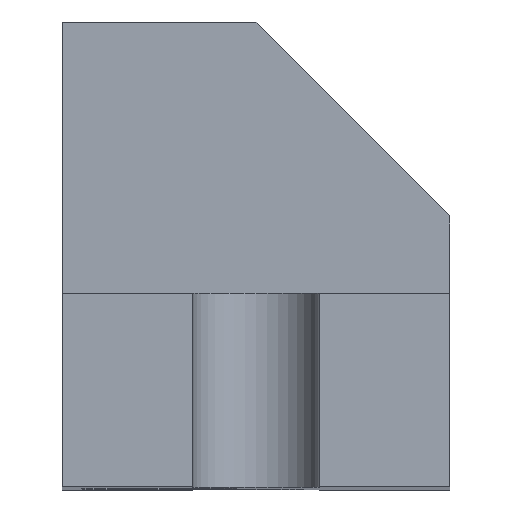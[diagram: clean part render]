
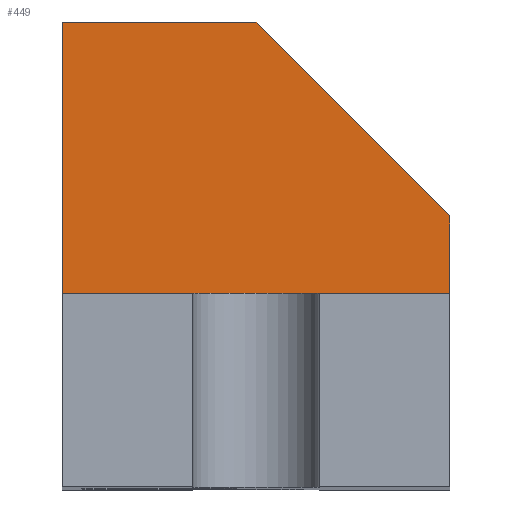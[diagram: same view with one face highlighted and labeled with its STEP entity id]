
A CAD part, top view. The second image highlights one B-rep face of the part: STEP entity #449.
In plain terms, the highlighted planar face has unit normal (0, 0, 1).
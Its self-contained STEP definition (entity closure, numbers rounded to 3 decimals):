
#306 = EDGE_CURVE ( 'NONE', #387, #307, #1075, .T. ) ;
#307 = VERTEX_POINT ( 'NONE', #1071 ) ;
#313 = VERTEX_POINT ( 'NONE', #1060 ) ;
#369 = EDGE_CURVE ( 'NONE', #313, #387, #1175, .T. ) ;
#387 = VERTEX_POINT ( 'NONE', #1206 ) ;
#449 = ADVANCED_FACE ( 'NONE', ( #1222 ), #1221, .F. ) ;
#450 = EDGE_LOOP ( 'NONE', ( #451, #452, #453, #454, #457 ) ) ;
#451 = ORIENTED_EDGE ( 'NONE', *, *, #468, .F. ) ;
#452 = ORIENTED_EDGE ( 'NONE', *, *, #306, .F. ) ;
#453 = ORIENTED_EDGE ( 'NONE', *, *, #369, .F. ) ;
#454 = ORIENTED_EDGE ( 'NONE', *, *, #455, .F. ) ;
#455 = EDGE_CURVE ( 'NONE', #456, #313, #1284, .T. ) ;
#456 = VERTEX_POINT ( 'NONE', #1280 ) ;
#457 = ORIENTED_EDGE ( 'NONE', *, *, #458, .F. ) ;
#458 = EDGE_CURVE ( 'NONE', #469, #456, #1279, .T. ) ;
#468 = EDGE_CURVE ( 'NONE', #307, #469, #1256, .T. ) ;
#469 = VERTEX_POINT ( 'NONE', #1252 ) ;
#1060 = CARTESIAN_POINT ( 'NONE',  ( -23.562, -7.58, 75. ) ) ;
#1071 = CARTESIAN_POINT ( 'NONE',  ( -13.562, -21.58, 75. ) ) ;
#1072 = DIRECTION ( 'NONE',  ( 0., -1., 0. ) ) ;
#1073 = VECTOR ( 'NONE', #1072, 1000. ) ;
#1074 = CARTESIAN_POINT ( 'NONE',  ( -13.562, -21.58, 75. ) ) ;
#1075 = LINE ( 'NONE', #1074, #1073 ) ;
#1172 = DIRECTION ( 'NONE',  ( 0.707, -0.707, 0. ) ) ;
#1173 = VECTOR ( 'NONE', #1172, 1000. ) ;
#1174 = CARTESIAN_POINT ( 'NONE',  ( -23.562, -7.58, 75. ) ) ;
#1175 = LINE ( 'NONE', #1174, #1173 ) ;
#1206 = CARTESIAN_POINT ( 'NONE',  ( -13.562, -17.58, 75. ) ) ;
#1217 = DIRECTION ( 'NONE',  ( -1., 0., 0. ) ) ;
#1218 = DIRECTION ( 'NONE',  ( 0., 0., -1. ) ) ;
#1219 = CARTESIAN_POINT ( 'NONE',  ( -13.562, -21.58, 75. ) ) ;
#1220 = AXIS2_PLACEMENT_3D ( 'NONE', #1219, #1218, #1217 ) ;
#1221 = PLANE ( 'NONE',  #1220 ) ;
#1222 = FACE_OUTER_BOUND ( 'NONE', #450, .T. ) ;
#1252 = CARTESIAN_POINT ( 'NONE',  ( -33.562, -21.58, 75. ) ) ;
#1253 = DIRECTION ( 'NONE',  ( -1., 0., 0. ) ) ;
#1254 = VECTOR ( 'NONE', #1253, 1000. ) ;
#1255 = CARTESIAN_POINT ( 'NONE',  ( -13.562, -21.58, 75. ) ) ;
#1256 = LINE ( 'NONE', #1255, #1254 ) ;
#1276 = DIRECTION ( 'NONE',  ( 0., 1., 0. ) ) ;
#1277 = VECTOR ( 'NONE', #1276, 1000. ) ;
#1278 = CARTESIAN_POINT ( 'NONE',  ( -33.562, -31.58, 75. ) ) ;
#1279 = LINE ( 'NONE', #1278, #1277 ) ;
#1280 = CARTESIAN_POINT ( 'NONE',  ( -33.562, -7.58, 75. ) ) ;
#1281 = DIRECTION ( 'NONE',  ( 1., 0., 0. ) ) ;
#1282 = VECTOR ( 'NONE', #1281, 1000. ) ;
#1283 = CARTESIAN_POINT ( 'NONE',  ( -33.562, -7.58, 75. ) ) ;
#1284 = LINE ( 'NONE', #1283, #1282 ) ;
